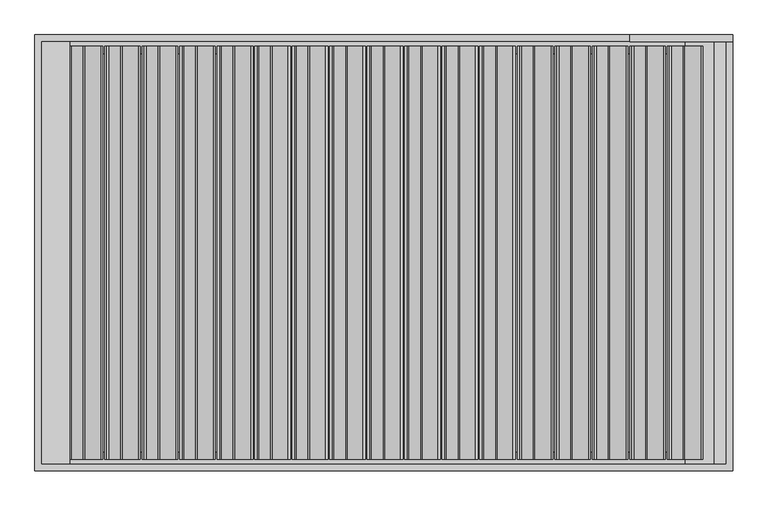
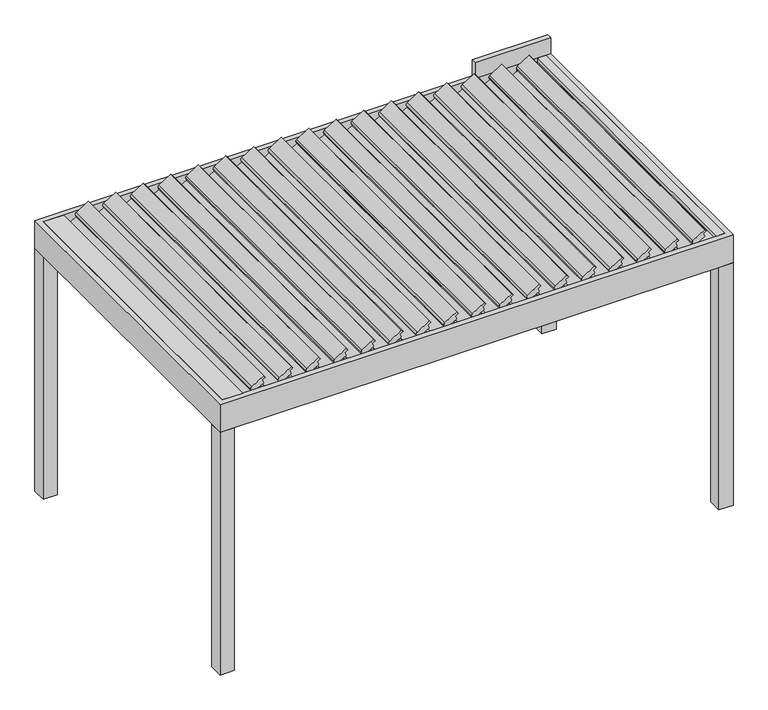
"""IFC4 building model written with IfcOpenShell, lengths in millimetres: proxy geometry, Renson_Algarve_Single : Algarve - Single."""

from ifc_helpers import new_model, si_unit, point, frame, frame_2d, origin, origin_with_axes, place, context, project, spatial, polyline, circle_curve, trimmed, segment, composite_curve, outline, extrude, faceted_brep, source, transform, mapped, element, save


def generic_models_d936cac6(model_context):
    return source(origin(), model_context, "Body", "SolidModel", [
        extrude(outline(composite_curve([segment(polyline([(2239.6354765, 1602.1127309), (2264.8015087, 1590.3776174), (2280.418628, 1614.6571486), (2295.5823251, 1601.9332959), (2236.0080876, 1509.3147703)]), True, "CONTINUOUS"), segment(trimmed(circle_curve(frame_2d((2223.3925024, 1517.4293873)), 15.0), [point((2236.0080876, 1509.3147703))], [point((2218.2622002, 1503.333998))], False, "CARTESIAN"), True, "CONTINUOUS"), segment(polyline([(2218.2622002, 1503.333998), (2199.9135617, 1510.0123563), (2156.0456737, 1434.0309454), (2169.3306402, 1422.883535), (2161.0566607, 1410.0201932), (2135.5876405, 1421.8965924), (2239.6354765, 1602.1127309)]), True, "CONTINUOUS")], self_intersect=False)), frame((0.0, -1185.0, 0.0), z_axis=(0.0, 1.0, 0.0), x_axis=(0.0, 0.0, 1.0)), (0.0, 0.0, 1.0), 2370.0),
        extrude(outline(composite_curve([segment(polyline([(2239.6354765, 1387.1019261), (2264.8015087, 1375.3668126), (2280.418628, 1399.6463438), (2295.5823251, 1386.9224911), (2236.0080876, 1294.3039655)]), True, "CONTINUOUS"), segment(trimmed(circle_curve(frame_2d((2223.3925024, 1302.4185826)), 15.0), [point((2236.0080876, 1294.3039655))], [point((2218.2622002, 1288.3231933))], False, "CARTESIAN"), True, "CONTINUOUS"), segment(polyline([(2218.2622002, 1288.3231933), (2199.9135617, 1295.0015515), (2156.0456737, 1219.0201406), (2169.3306402, 1207.8727302), (2161.0566607, 1195.0093884), (2135.5876405, 1206.8857876), (2239.6354765, 1387.1019261)]), True, "CONTINUOUS")], self_intersect=False)), frame((0.0, -1185.0, 0.0), z_axis=(0.0, 1.0, 0.0), x_axis=(0.0, 0.0, 1.0)), (0.0, 0.0, 1.0), 2370.0),
        extrude(outline(composite_curve([segment(polyline([(2239.6354765, 1172.0911213), (2264.8015087, 1160.3560078), (2280.418628, 1184.635539), (2295.5823251, 1171.9116864), (2236.0080876, 1079.2931607)]), True, "CONTINUOUS"), segment(trimmed(circle_curve(frame_2d((2223.3925024, 1087.4077778)), 15.0), [point((2236.0080876, 1079.2931607))], [point((2218.2622002, 1073.3123885))], False, "CARTESIAN"), True, "CONTINUOUS"), segment(polyline([(2218.2622002, 1073.3123885), (2199.9135617, 1079.9907467), (2156.0456737, 1004.0093359), (2169.3306402, 992.8619254), (2161.0566607, 979.9985836), (2135.5876405, 991.8749828), (2239.6354765, 1172.0911213)]), True, "CONTINUOUS")], self_intersect=False)), frame((0.0, -1185.0, 0.0), z_axis=(0.0, 1.0, 0.0), x_axis=(0.0, 0.0, 1.0)), (0.0, 0.0, 1.0), 2370.0),
        extrude(outline(composite_curve([segment(polyline([(2239.6354765, 957.0803166), (2264.8015087, 945.345203), (2280.418628, 969.6247342), (2295.5823251, 956.9008816), (2236.0080876, 864.2823559)]), True, "CONTINUOUS"), segment(trimmed(circle_curve(frame_2d((2223.3925024, 872.396973)), 15.0), [point((2236.0080876, 864.2823559))], [point((2218.2622002, 858.3015837))], False, "CARTESIAN"), True, "CONTINUOUS"), segment(polyline([(2218.2622002, 858.3015837), (2199.9135617, 864.9799419), (2156.0456737, 788.9985311), (2169.3306402, 777.8511206), (2161.0566607, 764.9877788), (2135.5876405, 776.864178), (2239.6354765, 957.0803166)]), True, "CONTINUOUS")], self_intersect=False)), frame((0.0, -1185.0, 0.0), z_axis=(0.0, 1.0, 0.0), x_axis=(0.0, 0.0, 1.0)), (0.0, 0.0, 1.0), 2370.0),
        extrude(outline(composite_curve([segment(polyline([(2239.6354765, 742.0695118), (2264.8015087, 730.3343982), (2280.418628, 754.6139294), (2295.5823251, 741.8900768), (2236.0080876, 649.2715512)]), True, "CONTINUOUS"), segment(trimmed(circle_curve(frame_2d((2223.3925024, 657.3861682)), 15.0), [point((2236.0080876, 649.2715512))], [point((2218.2622002, 643.2907789))], False, "CARTESIAN"), True, "CONTINUOUS"), segment(polyline([(2218.2622002, 643.2907789), (2199.9135617, 649.9691372), (2156.0456737, 573.9877263), (2169.3306402, 562.8403158), (2161.0566607, 549.9769741), (2135.5876405, 561.8533733), (2239.6354765, 742.0695118)]), True, "CONTINUOUS")], self_intersect=False)), frame((0.0, -1185.0, 0.0), z_axis=(0.0, 1.0, 0.0), x_axis=(0.0, 0.0, 1.0)), (0.0, 0.0, 1.0), 2370.0),
        extrude(outline(composite_curve([segment(polyline([(2239.6354765, 527.058707), (2264.8015087, 515.3235934), (2280.418628, 539.6031247), (2295.5823251, 526.879272), (2236.0080876, 434.2607464)]), True, "CONTINUOUS"), segment(trimmed(circle_curve(frame_2d((2223.3925024, 442.3753634)), 15.0), [point((2236.0080876, 434.2607464))], [point((2218.2622002, 428.2799741))], False, "CARTESIAN"), True, "CONTINUOUS"), segment(polyline([(2218.2622002, 428.2799741), (2199.9135617, 434.9583324), (2156.0456737, 358.9769215), (2169.3306402, 347.829511), (2161.0566607, 334.9661693), (2135.5876405, 346.8425685), (2239.6354765, 527.058707)]), True, "CONTINUOUS")], self_intersect=False)), frame((0.0, -1185.0, 0.0), z_axis=(0.0, 1.0, 0.0), x_axis=(0.0, 0.0, 1.0)), (0.0, 0.0, 1.0), 2370.0),
        extrude(outline(composite_curve([segment(polyline([(2239.6354765, 312.0479022), (2264.8015087, 300.3127887), (2280.418628, 324.5923199), (2295.5823251, 311.8684672), (2236.0080876, 219.2499416)]), True, "CONTINUOUS"), segment(trimmed(circle_curve(frame_2d((2223.3925024, 227.3645587)), 15.0), [point((2236.0080876, 219.2499416))], [point((2218.2622002, 213.2691693))], False, "CARTESIAN"), True, "CONTINUOUS"), segment(polyline([(2218.2622002, 213.2691693), (2199.9135617, 219.9475276), (2156.0456737, 143.9661167), (2169.3306402, 132.8187063), (2161.0566607, 119.9553645), (2135.5876405, 131.8317637), (2239.6354765, 312.0479022)]), True, "CONTINUOUS")], self_intersect=False)), frame((0.0, -1185.0, 0.0), z_axis=(0.0, 1.0, 0.0), x_axis=(0.0, 0.0, 1.0)), (0.0, 0.0, 1.0), 2370.0),
        extrude(outline(composite_curve([segment(polyline([(2239.6354765, 97.0370974), (2264.8015087, 85.3019839), (2280.418628, 109.5815151), (2295.5823251, 96.8576625), (2236.0080876, 4.2391368)]), True, "CONTINUOUS"), segment(trimmed(circle_curve(frame_2d((2223.3925024, 12.3537539)), 15.0), [point((2236.0080876, 4.2391368))], [point((2218.2622002, -1.7416354))], False, "CARTESIAN"), True, "CONTINUOUS"), segment(polyline([(2218.2622002, -1.7416354), (2199.9135617, 4.9367228), (2156.0456737, -71.0446881), (2169.3306402, -82.1920985), (2161.0566607, -95.0554403), (2135.5876405, -83.1790411), (2239.6354765, 97.0370974)]), True, "CONTINUOUS")], self_intersect=False)), frame((0.0, -1185.0, 0.0), z_axis=(0.0, 1.0, 0.0), x_axis=(0.0, 0.0, 1.0)), (0.0, 0.0, 1.0), 2370.0),
        extrude(outline(composite_curve([segment(polyline([(2239.6354765, -117.9737074), (2264.8015087, -129.7088209), (2280.418628, -105.4292897), (2295.5823251, -118.1531423), (2236.0080876, -210.771668)]), True, "CONTINUOUS"), segment(trimmed(circle_curve(frame_2d((2223.3925024, -202.6570509)), 15.0), [point((2236.0080876, -210.771668))], [point((2218.2622002, -216.7524402))], False, "CARTESIAN"), True, "CONTINUOUS"), segment(polyline([(2218.2622002, -216.7524402), (2199.9135617, -210.074082), (2156.0456737, -286.0554928), (2169.3306402, -297.2029033), (2161.0566607, -310.0662451), (2135.5876405, -298.1898459), (2239.6354765, -117.9737074)]), True, "CONTINUOUS")], self_intersect=False)), frame((0.0, -1185.0, 0.0), z_axis=(0.0, 1.0, 0.0), x_axis=(0.0, 0.0, 1.0)), (0.0, 0.0, 1.0), 2370.0),
        extrude(outline(composite_curve([segment(polyline([(2239.6354765, -332.9845121), (2264.8015087, -344.7196257), (2280.418628, -320.4400945), (2295.5823251, -333.1639471), (2236.0080876, -425.7824728)]), True, "CONTINUOUS"), segment(trimmed(circle_curve(frame_2d((2223.3925024, -417.6678557)), 15.0), [point((2236.0080876, -425.7824728))], [point((2218.2622002, -431.763245))], False, "CARTESIAN"), True, "CONTINUOUS"), segment(polyline([(2218.2622002, -431.763245), (2199.9135617, -425.0848868), (2156.0456737, -501.0662976), (2169.3306402, -512.2137081), (2161.0566607, -525.0770498), (2135.5876405, -513.2006506), (2239.6354765, -332.9845121)]), True, "CONTINUOUS")], self_intersect=False)), frame((0.0, -1185.0, 0.0), z_axis=(0.0, 1.0, 0.0), x_axis=(0.0, 0.0, 1.0)), (0.0, 0.0, 1.0), 2370.0),
        extrude(outline(composite_curve([segment(polyline([(2239.6354765, -547.9953169), (2264.8015087, -559.7304305), (2280.418628, -535.4508992), (2295.5823251, -548.1747519), (2236.0080876, -640.7932775)]), True, "CONTINUOUS"), segment(trimmed(circle_curve(frame_2d((2223.3925024, -632.6786605)), 15.0), [point((2236.0080876, -640.7932775))], [point((2218.2622002, -646.7740498))], False, "CARTESIAN"), True, "CONTINUOUS"), segment(polyline([(2218.2622002, -646.7740498), (2199.9135617, -640.0956915), (2156.0456737, -716.0771024), (2169.3306402, -727.2245129), (2161.0566607, -740.0878546), (2135.5876405, -728.2114554), (2239.6354765, -547.9953169)]), True, "CONTINUOUS")], self_intersect=False)), frame((0.0, -1185.0, 0.0), z_axis=(0.0, 1.0, 0.0), x_axis=(0.0, 0.0, 1.0)), (0.0, 0.0, 1.0), 2370.0),
        extrude(outline(composite_curve([segment(polyline([(2239.6354765, -763.0061217), (2264.8015087, -774.7412352), (2280.418628, -750.461704), (2295.5823251, -763.1855567), (2236.0080876, -855.8040823)]), True, "CONTINUOUS"), segment(trimmed(circle_curve(frame_2d((2223.3925024, -847.6894652)), 15.0), [point((2236.0080876, -855.8040823))], [point((2218.2622002, -861.7848546))], False, "CARTESIAN"), True, "CONTINUOUS"), segment(polyline([(2218.2622002, -861.7848546), (2199.9135617, -855.1064963), (2156.0456737, -931.0879072), (2169.3306402, -942.2353176), (2161.0566607, -955.0986594), (2135.5876405, -943.2222602), (2239.6354765, -763.0061217)]), True, "CONTINUOUS")], self_intersect=False)), frame((0.0, -1185.0, 0.0), z_axis=(0.0, 1.0, 0.0), x_axis=(0.0, 0.0, 1.0)), (0.0, 0.0, 1.0), 2370.0),
        extrude(outline(composite_curve([segment(polyline([(2239.6354765, -978.0169265), (2264.8015087, -989.75204), (2280.418628, -965.4725088), (2295.5823251, -978.1963615), (2236.0080876, -1070.8148871)]), True, "CONTINUOUS"), segment(trimmed(circle_curve(frame_2d((2223.3925024, -1062.70027)), 15.0), [point((2236.0080876, -1070.8148871))], [point((2218.2622002, -1076.7956593))], False, "CARTESIAN"), True, "CONTINUOUS"), segment(polyline([(2218.2622002, -1076.7956593), (2199.9135617, -1070.1173011), (2156.0456737, -1146.098712), (2169.3306402, -1157.2461224), (2161.0566607, -1170.1094642), (2135.5876405, -1158.233065), (2239.6354765, -978.0169265)]), True, "CONTINUOUS")], self_intersect=False)), frame((0.0, -1185.0, 0.0), z_axis=(0.0, 1.0, 0.0), x_axis=(0.0, 0.0, 1.0)), (0.0, 0.0, 1.0), 2370.0),
        extrude(outline(composite_curve([segment(polyline([(2239.6354765, -1193.0277313), (2264.8015087, -1204.7628448), (2280.418628, -1180.4833136), (2295.5823251, -1193.2071662), (2236.0080876, -1285.8256919)]), True, "CONTINUOUS"), segment(trimmed(circle_curve(frame_2d((2223.3925024, -1277.7110748)), 15.0), [point((2236.0080876, -1285.8256919))], [point((2218.2622002, -1291.8064641))], False, "CARTESIAN"), True, "CONTINUOUS"), segment(polyline([(2218.2622002, -1291.8064641), (2199.9135617, -1285.1281059), (2156.0456737, -1361.1095167), (2169.3306402, -1372.2569272), (2161.0566607, -1385.120269), (2135.5876405, -1373.2438698), (2239.6354765, -1193.0277313)]), True, "CONTINUOUS")], self_intersect=False)), frame((0.0, -1185.0, 0.0), z_axis=(0.0, 1.0, 0.0), x_axis=(0.0, 0.0, 1.0)), (0.0, 0.0, 1.0), 2370.0),
        extrude(outline(composite_curve([segment(polyline([(2239.6354765, -1408.038536), (2264.8015087, -1419.7736496), (2280.418628, -1395.4941184), (2295.5823251, -1408.217971), (2236.0080876, -1500.8364967)]), True, "CONTINUOUS"), segment(trimmed(circle_curve(frame_2d((2223.3925024, -1492.7218796)), 15.0), [point((2236.0080876, -1500.8364967))], [point((2218.2622002, -1506.8172689))], False, "CARTESIAN"), True, "CONTINUOUS"), segment(polyline([(2218.2622002, -1506.8172689), (2199.9135617, -1500.1389107), (2156.0456737, -1576.1203215), (2169.3306402, -1587.267732), (2161.0566607, -1600.1310738), (2135.5876405, -1588.2546746), (2239.6354765, -1408.038536)]), True, "CONTINUOUS")], self_intersect=False)), frame((0.0, -1185.0, 0.0), z_axis=(0.0, 1.0, 0.0), x_axis=(0.0, 0.0, 1.0)), (0.0, 0.0, 1.0), 2370.0),
        extrude(outline(composite_curve([segment(polyline([(2239.6354765, 1817.1235357), (2264.8015087, 1805.3884221), (2280.418628, 1829.6679534), (2295.5823251, 1816.9441007), (2236.0080876, 1724.3255751)]), True, "CONTINUOUS"), segment(trimmed(circle_curve(frame_2d((2223.3925024, 1732.4401921)), 15.0), [point((2236.0080876, 1724.3255751))], [point((2218.2622002, 1718.3448028))], False, "CARTESIAN"), True, "CONTINUOUS"), segment(polyline([(2218.2622002, 1718.3448028), (2199.9135617, 1725.0231611), (2156.0456737, 1649.0417502), (2169.3306402, 1637.8943397), (2161.0566607, 1625.030998), (2135.5876405, 1636.9073972), (2239.6354765, 1817.1235357)]), True, "CONTINUOUS")], self_intersect=False)), frame((0.0, -1185.0, 0.0), z_axis=(0.0, 1.0, 0.0), x_axis=(0.0, 0.0, 1.0)), (0.0, 0.0, 1.0), 2370.0),
        extrude(outline(composite_curve([segment(polyline([(2239.6354765, -1623.0493408), (2264.8015087, -1634.7844544), (2280.418628, -1610.5049231), (2295.5823251, -1623.2287758), (2236.0080876, -1715.8473014)]), True, "CONTINUOUS"), segment(trimmed(circle_curve(frame_2d((2223.3925024, -1707.7326844)), 15.0), [point((2236.0080876, -1715.8473014))], [point((2218.2622002, -1721.8280737))], False, "CARTESIAN"), True, "CONTINUOUS"), segment(polyline([(2218.2622002, -1721.8280737), (2199.9135617, -1715.1497154), (2156.0456737, -1791.1311263), (2169.3306402, -1802.2785368), (2161.0566607, -1815.1418785), (2135.5876405, -1803.2654793), (2239.6354765, -1623.0493408)]), True, "CONTINUOUS")], self_intersect=False)), frame((0.0, -1185.0, 0.0), z_axis=(0.0, 1.0, 0.0), x_axis=(0.0, 0.0, 1.0)), (0.0, 0.0, 1.0), 2370.0),
        extrude(outline(polyline([(2168.0, 1960.0), (2230.0, 1960.0), (2230.0, 1896.0), (2198.0, 1896.0), (2198.0, 1730.0), (2168.0, 1730.0), (2168.0, 1960.0)])), frame((0.0, -1210.0, 0.0), z_axis=(0.0, 1.0, 0.0), x_axis=(0.0, 0.0, 1.0)), (0.0, 0.0, 1.0), 2420.0),
        extrude(outline(polyline([(2230.0, -1800.0), (2230.0, -1960.0), (2186.0, -1960.0), (2186.0, -1827.3193336), (2219.1716603, -1824.4171894), (2220.344502, -1800.0), (2230.0, -1800.0)])), frame((0.0, -1210.0, 0.0), z_axis=(0.0, 1.0, 0.0), x_axis=(0.0, 0.0, 1.0)), (0.0, 0.0, 1.0), 2420.0),
        faceted_brep([(1890.0, 1140.0, 2057.0), (1890.0, 1140.0, 2000.0), (1890.0, -1140.0, 2000.0), (1890.0, -1140.0, 2057.0), (2000.0, 1250.0, 2000.0), (2000.0, 1250.0, 2230.0), (2000.0, -1250.0, 2230.0), (2000.0, -1250.0, 2000.0), (1960.0, 1210.0, 2230.0), (1960.0, 1210.0, 2057.0), (1960.0, -1210.0, 2057.0), (1960.0, -1210.0, 2230.0), (-1890.0, -1140.0, 2000.0), (-1890.0, -1140.0, 2057.0), (-2000.0, -1250.0, 2230.0), (-2000.0, -1250.0, 2000.0), (-1960.0, -1210.0, 2057.0), (-1960.0, -1210.0, 2230.0), (-1890.0, 1140.0, 2000.0), (-1890.0, 1140.0, 2057.0), (-2000.0, 1250.0, 2230.0), (-2000.0, 1250.0, 2000.0), (-1960.0, 1210.0, 2057.0), (-1960.0, 1210.0, 2230.0)], [[[0, 1, 2, 3]], [[4, 5, 6, 7]], [[8, 9, 10, 11]], [[3, 2, 12, 13]], [[7, 6, 14, 15]], [[11, 10, 16, 17]], [[13, 12, 18, 19]], [[15, 14, 20, 21]], [[17, 16, 22, 23]], [[9, 22, 16, 10], [3, 13, 19, 0]], [[19, 18, 1, 0]], [[7, 15, 21, 4], [1, 18, 12, 2]], [[21, 20, 5, 4]], [[5, 20, 14, 6], [11, 17, 23, 8]], [[23, 22, 9, 8]]]),
        extrude(outline(polyline([(2000.0, 1250.0), (2000.0, 1140.0), (1890.0, 1140.0), (1890.0, 1250.0), (2000.0, 1250.0)])), origin_with_axes(), (0.0, 0.0, 1.0), 2000.0),
        extrude(outline(polyline([(2000.0, -1140.0), (2000.0, -1250.0), (1890.0, -1250.0), (1890.0, -1140.0), (2000.0, -1140.0)])), origin_with_axes(), (0.0, 0.0, 1.0), 2000.0),
        extrude(outline(polyline([(-1890.0, -1140.0), (-1890.0, -1250.0), (-2000.0, -1250.0), (-2000.0, -1140.0), (-1890.0, -1140.0)])), origin_with_axes(), (0.0, 0.0, 1.0), 2000.0),
        extrude(outline(polyline([(-1890.0, 1250.0), (-1890.0, 1140.0), (-2000.0, 1140.0), (-2000.0, 1250.0), (-1890.0, 1250.0)])), origin_with_axes(), (0.0, 0.0, 1.0), 2000.0),
        extrude(outline(polyline([(2000.0, 1250.0), (2000.0, 1210.0), (1410.0, 1210.0), (1410.0, 1250.0), (2000.0, 1250.0)])), frame((0.0, 0.0, 2230.0), z_axis=(0.0, 0.0, 1.0), x_axis=(1.0, 0.0, 0.0)), (0.0, 0.0, 1.0), 130.0),
    ])


if __name__ == "__main__":
    model = new_model("IFC4")
    model_context = context("Model", 3, world=origin())
    ifc_project = project(units=[si_unit("LENGTHUNIT", "METRE", prefix="MILLI")], contexts=[model_context])
    site = spatial("IfcSite", under=ifc_project)
    building = spatial("IfcBuilding", under=site)
    placement = place(None, origin())
    generic_models_shape = generic_models_d936cac6(model_context)
    element("IfcBuildingElementProxy", 1, Name="Renson_Algarve_Single : Algarve - Single", ObjectType="Renson_Algarve_Single : Algarve - Single", at=placement, inside=building, context=model_context, shape_type="MappedRepresentation", body=[
        mapped(generic_models_shape, transform((0.0, 0.0, 0.0), x_axis=(1.0, 0.0, 0.0), y_axis=(0.0, 1.0, 0.0), z_axis=(0.0, 0.0, 1.0))),
    ])
    save(model, "model.ifc")
